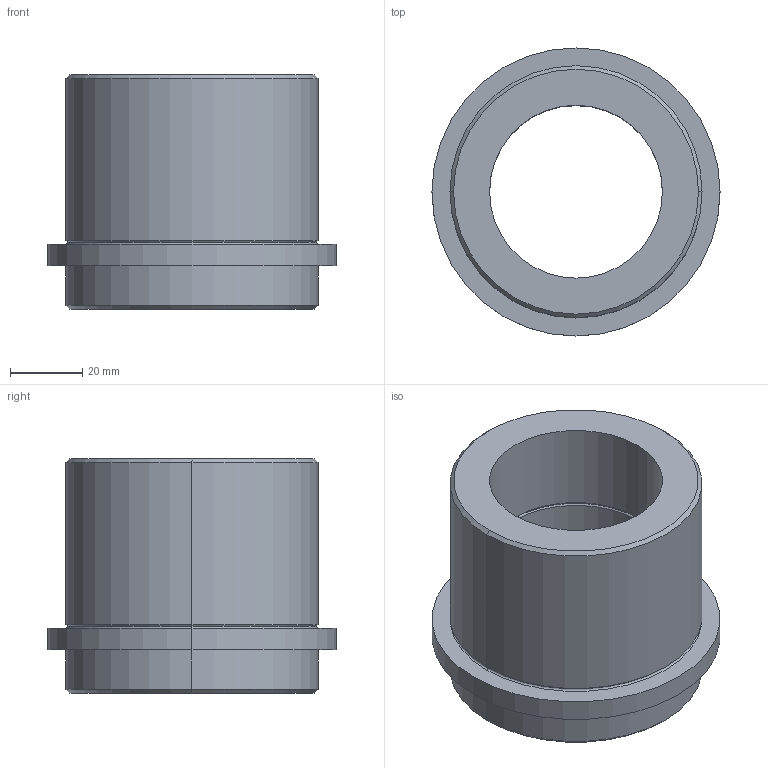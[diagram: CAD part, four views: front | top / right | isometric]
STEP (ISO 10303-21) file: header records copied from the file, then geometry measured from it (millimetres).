
FILE_DESCRIPTION (( 'STEP AP214' ), '1' );
FILE_NAME ('Casquillo SB500-48-65.STEP', '2018-11-26T13:30:08', ( '' ), ( '' ), 'SwSTEP 2.0', 'SolidWorks 2018', '' );
FILE_SCHEMA (( 'AUTOMOTIVE_DESIGN' ));
Length unit declared in the file: millimetre
Products named in the file (1): Casquillo SB500-48-65
Bounding box: 80 x 80 x 65 mm (x, y, z)
Volume: 139260.5 mm3; surface area: 30756.4 mm2
Topology: 1 solids, 1 shells, 32 faces, 64 edges, 36 vertices
Faces by surface type: torus 12, cylinder 12, cone 4, plane 4
Entity records: 874 total; most frequent: DIRECTION 178, CARTESIAN_POINT 133, ORIENTED_EDGE 128, AXIS2_PLACEMENT_3D 81, EDGE_CURVE 64, CIRCLE 48, VERTEX_POINT 36, EDGE_LOOP 36
